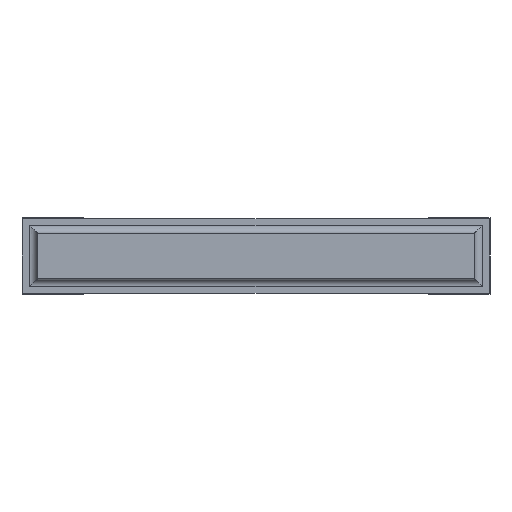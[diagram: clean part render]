
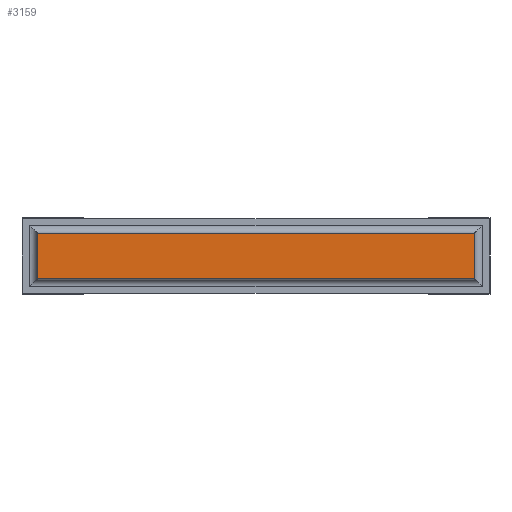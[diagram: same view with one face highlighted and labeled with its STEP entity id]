
A CAD part, front view. The second image highlights one B-rep face of the part: STEP entity #3159.
In plain terms, the highlighted planar face has unit normal (0, -1, 0).
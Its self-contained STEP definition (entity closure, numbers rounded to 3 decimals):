
#49=PLANE('',#3389);
#209=FACE_OUTER_BOUND('',#406,.T.);
#406=EDGE_LOOP('',(#2243,#2244,#2245,#2246));
#606=LINE('',#4513,#1018);
#612=LINE('',#4529,#1024);
#621=LINE('',#4546,#1033);
#622=LINE('',#4548,#1034);
#1018=VECTOR('',#3626,10.);
#1024=VECTOR('',#3640,10.);
#1033=VECTOR('',#3657,10.);
#1034=VECTOR('',#3660,10.);
#1471=VERTEX_POINT('',#4510);
#1472=VERTEX_POINT('',#4512);
#1477=VERTEX_POINT('',#4525);
#1478=VERTEX_POINT('',#4527);
#1760=EDGE_CURVE('',#1472,#1471,#606,.T.);
#1768=EDGE_CURVE('',#1478,#1477,#612,.T.);
#1777=EDGE_CURVE('',#1472,#1478,#621,.T.);
#1778=EDGE_CURVE('',#1477,#1471,#622,.T.);
#2243=ORIENTED_EDGE('',*,*,#1777,.F.);
#2244=ORIENTED_EDGE('',*,*,#1760,.T.);
#2245=ORIENTED_EDGE('',*,*,#1778,.F.);
#2246=ORIENTED_EDGE('',*,*,#1768,.F.);
#3159=ADVANCED_FACE('',(#209),#49,.T.);
#3389=AXIS2_PLACEMENT_3D('',#4547,#3658,#3659);
#3626=DIRECTION('',(0.,0.,-1.));
#3640=DIRECTION('',(0.,0.,-1.));
#3657=DIRECTION('',(1.,0.,0.));
#3658=DIRECTION('center_axis',(0.,-1.,0.));
#3659=DIRECTION('ref_axis',(0.,0.,-1.));
#3660=DIRECTION('',(-1.,0.,0.));
#4510=CARTESIAN_POINT('',(0.1,0.,0.1));
#4512=CARTESIAN_POINT('',(0.1,0.,0.4));
#4513=CARTESIAN_POINT('',(0.1,0.,0.4));
#4525=CARTESIAN_POINT('',(2.96,0.,0.1));
#4527=CARTESIAN_POINT('',(2.96,0.,0.4));
#4529=CARTESIAN_POINT('',(2.96,0.,0.4));
#4546=CARTESIAN_POINT('',(0.1,0.,0.4));
#4547=CARTESIAN_POINT('Origin',(2.96,0.,0.25));
#4548=CARTESIAN_POINT('',(2.96,0.,0.1));
